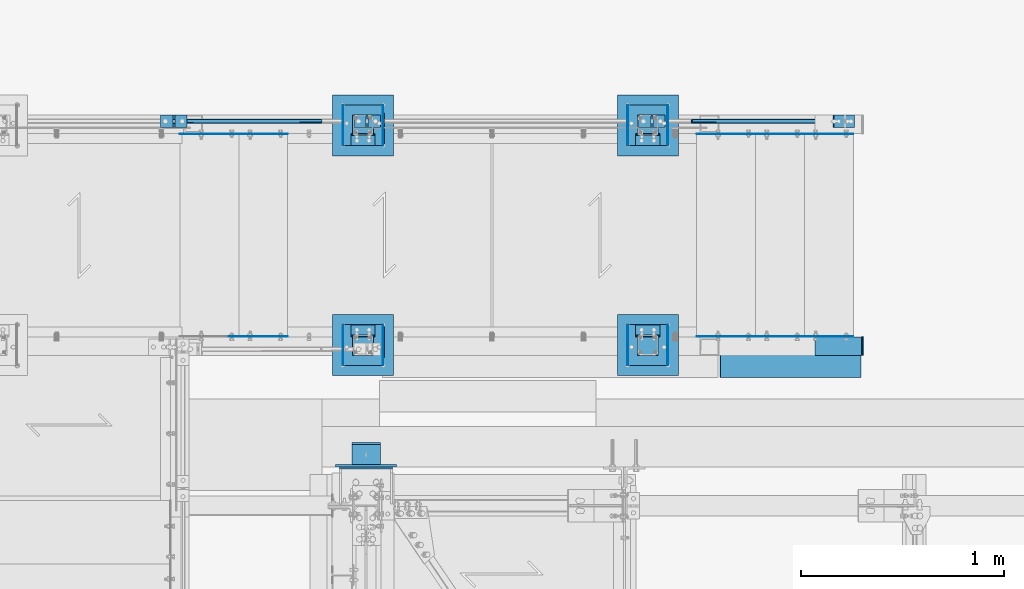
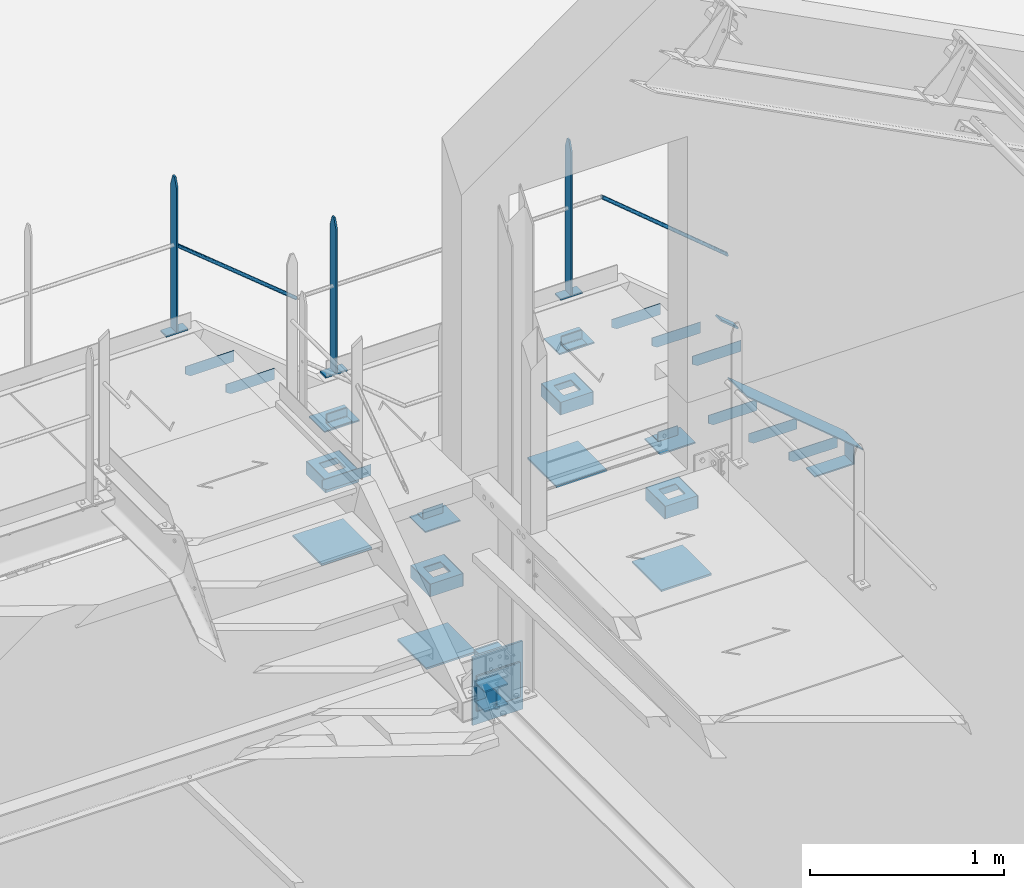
# One storey, part 99 of 362: 47 beams, 4 members, 18 elements without a shape of their own.
"""IFC2X3 building model written with IfcOpenShell, lengths in millimetres."""

import ifcopenshell
import ifcopenshell.guid

model = None  # the IFC model being written
_history = None  # IfcOwnerHistory: only IFC2X3 demands one
_inside = {}  # id of a spatial element -> (the spatial element, [elements in it])
_under = {}  # id of a project, library or spatial element -> (it, [spatial elements below it])
_declared = {}  # id of a project -> (the project, [libraries it declares])
_typed = {}  # id of a type object -> (the type object, [elements of that type])
_made_of = {}  # id of a material, layer set ... -> (it, [elements and type objects made of it])


def new_model(schema):
    """Start an empty IFC model of exactly this schema.

    Asked for "IFC4X3", IfcOpenShell would pick the latest addendum, in which some entities
    have other attributes; the version numbers below select the first issue.
    IFC2X3 requires an IfcOwnerHistory on every rooted entity: one is made here for all.
    """
    global model, _history
    if schema == "IFC4X3":
        model = ifcopenshell.file(schema_version=(4, 3, 0, 0))
    else:
        model = ifcopenshell.file(schema=schema)
    _inside.clear()
    _under.clear()
    _declared.clear()
    _typed.clear()
    _made_of.clear()
    _history = None
    if model.schema == "IFC2X3":
        org = make("IfcOrganization", Name="unknown")
        user = make(
            "IfcPersonAndOrganization",
            ThePerson=make("IfcPerson", FamilyName="unknown"),
            TheOrganization=org,
        )
        app = make(
            "IfcApplication",
            ApplicationDeveloper=org,
            Version="unknown",
            ApplicationFullName="unknown",
            ApplicationIdentifier="unknown",
        )
        _history = make(
            "IfcOwnerHistory",
            OwningUser=user,
            OwningApplication=app,
            ChangeAction="ADDED",
            CreationDate=0,
        )
    return model


def make(cls, **values):
    """One entity of the class cls with the attributes given. An attribute that is None is left unset."""
    return model.create_entity(
        cls, **{name: value for name, value in values.items() if value is not None}
    )


def rooted(cls, **values):
    """An entity with a GlobalId (a new one), such as an element, a storey or a relation."""
    return make(cls, GlobalId=ifcopenshell.guid.new(), OwnerHistory=_history, **values)


def si_unit(unit_type, name, prefix=None):
    """IfcSIUnit, for example si_unit("LENGTHUNIT", "METRE", prefix="MILLI")."""
    return make("IfcSIUnit", UnitType=unit_type, Prefix=prefix, Name=name)


def assignment(units):
    """IfcUnitAssignment: the units of a project."""
    return None if units is None else make("IfcUnitAssignment", Units=units)


def point(xyz):
    """IfcCartesianPoint."""
    return None if xyz is None else make("IfcCartesianPoint", Coordinates=xyz)


def direction(xyz):
    """IfcDirection."""
    return None if xyz is None else make("IfcDirection", DirectionRatios=xyz)


def frame(location, z_axis=None, x_axis=None):
    """IfcAxis2Placement3D, a coordinate frame: its origin and axes. An axis left out is left unset."""
    return make(
        "IfcAxis2Placement3D",
        Location=point(location),
        Axis=direction(z_axis),
        RefDirection=direction(x_axis),
    )


def frame_2d(location, x_axis=None):
    """IfcAxis2Placement2D, a coordinate frame in the plane: its origin and x axis."""
    return make(
        "IfcAxis2Placement2D", Location=point(location), RefDirection=direction(x_axis)
    )


def origin_with_axes():
    """The frame at (0, 0, 0) with the z axis (0, 0, 1) and the x axis (1, 0, 0) written out."""
    return frame((0.0, 0.0, 0.0), z_axis=(0.0, 0.0, 1.0), x_axis=(1.0, 0.0, 0.0))


def origin_2d_with_axis():
    """The frame at (0, 0) in the plane with the x axis (1, 0) written out."""
    return frame_2d((0.0, 0.0), x_axis=(1.0, 0.0))


def place(relative_to, where):
    """IfcLocalPlacement: puts the frame where relative to a parent placement (None: the world)."""
    return make(
        "IfcLocalPlacement", PlacementRelTo=relative_to, RelativePlacement=where
    )


def context(
    kind, dimensions, precision=None, world=None, true_north=None, identifier=None
):
    """IfcGeometricRepresentationContext, for example the 3D "Model" context."""
    return make(
        "IfcGeometricRepresentationContext",
        ContextIdentifier=identifier,
        ContextType=kind,
        CoordinateSpaceDimension=dimensions,
        Precision=precision,
        WorldCoordinateSystem=world,
        TrueNorth=true_north,
    )


def subcontext(parent, identifier, kind, view, scale=None):
    """IfcGeometricRepresentationSubContext, for example "Body" below "Model"."""
    return make(
        "IfcGeometricRepresentationSubContext",
        ContextIdentifier=identifier,
        ContextType=kind,
        ParentContext=parent,
        TargetScale=scale,
        TargetView=view,
    )


def project(units=None, contexts=None):
    """IfcProject with its units and contexts."""
    return rooted(
        "IfcProject",
        Name="project",
        RepresentationContexts=contexts,
        UnitsInContext=assignment(units),
    )


def spatial(cls, under=None, at=None, **own):
    """A site, building, storey or space (cls), placed at a placement, below another one or the project."""
    s = rooted(cls, ObjectPlacement=at, **own)
    if under is not None:
        _under.setdefault(under.id(), (under, []))[1].append(s)
    return s


def polyline(points):
    """IfcPolyline through the points."""
    return make("IfcPolyline", Points=[point(p) for p in points])


def profile(cls, at=None, kind="AREA", **sizes):
    """A parametric profile (cls). Its sizes go by their IFC names, for example OverallWidth=200.0."""
    return make(cls, ProfileType=kind, Position=at, **sizes)


def rectangle(**sizes):
    """IfcRectangleProfileDef."""
    return profile("IfcRectangleProfileDef", **sizes)


def hollow_circle(**sizes):
    """IfcCircleHollowProfileDef."""
    return profile("IfcCircleHollowProfileDef", **sizes)


def i_section(**sizes):
    """IfcIShapeProfileDef."""
    return profile("IfcIShapeProfileDef", **sizes)


def l_section(**sizes):
    """IfcLShapeProfileDef."""
    return profile("IfcLShapeProfileDef", **sizes)


def u_section(**sizes):
    """IfcUShapeProfileDef."""
    return profile("IfcUShapeProfileDef", **sizes)


def outline(outer, holes=None, kind="AREA"):
    """IfcArbitraryClosedProfileDef: a profile drawn as a closed curve; with holes, ...WithVoids."""
    if holes is None:
        return make("IfcArbitraryClosedProfileDef", ProfileType=kind, OuterCurve=outer)
    return make(
        "IfcArbitraryProfileDefWithVoids",
        ProfileType=kind,
        OuterCurve=outer,
        InnerCurves=holes,
    )


def extrude(swept, where, along, depth):
    """IfcExtrudedAreaSolid: the profile swept, set in the frame where, extruded along a direction by depth."""
    return make(
        "IfcExtrudedAreaSolid",
        SweptArea=swept,
        Position=where,
        ExtrudedDirection=direction(along),
        Depth=depth,
    )


def boolean(op, a, b):
    """IfcBooleanResult of two solids."""
    return make("IfcBooleanResult", Operator=op, FirstOperand=a, SecondOperand=b)


def clip(a, b, op="DIFFERENCE"):
    """IfcBooleanClippingResult: the solid a cut by the half space b."""
    return make(
        "IfcBooleanClippingResult", Operator=op, FirstOperand=a, SecondOperand=b
    )


def halfspace(plane, agree):
    """IfcHalfSpaceSolid: all space on one side of the plane z = 0 of the frame plane."""
    return make(
        "IfcHalfSpaceSolid",
        BaseSurface=make("IfcPlane", Position=plane),
        AgreementFlag=agree,
    )


def shape(context_of_items, identifier, shape_type, items):
    """IfcShapeRepresentation: the items that make up one representation, for example the "Body"."""
    return make(
        "IfcShapeRepresentation",
        ContextOfItems=context_of_items,
        RepresentationIdentifier=identifier,
        RepresentationType=shape_type,
        Items=items,
    )


def material(Name=None, Category=None):
    """IfcMaterial."""
    return make("IfcMaterial", Name=Name, Category=Category)


def made_of(thing, what):
    """Note that an element or type object is made of a material, layer set ...; save() writes the relation."""
    if what is not None:
        _made_of.setdefault(what.id(), (what, []))[1].append(thing)
    return thing


def type_object(cls, material=None, **own):
    """A type object (cls), such as IfcWallType, which elements share."""
    return made_of(rooted(cls, **own), material)


def element(
    cls,
    number,
    at=None,
    inside=None,
    cuts=None,
    type_object=None,
    material=None,
    context=None,
    identifier="Body",
    shape_type=None,
    held_by="IfcProductDefinitionShape",
    body=None,
    shapes=None,
    **own,
):
    """One element of the class cls, such as IfcWall. Its Tag is "e" and its number.

    at: its placement. inside: the storey or other place that contains it. cuts: it is an
    opening in that element (IfcRelVoidsElement). A single representation is given by context,
    identifier, shape_type and body (its items); several are given by shapes. held_by: the class
    of the entity that holds the representations. save() writes the other relations.
    """
    e = rooted(cls, Tag="e%d" % number, ObjectPlacement=at, **own)
    if body is not None:
        shapes = [shape(context, identifier, shape_type, body)]
    if shapes is not None:
        e.Representation = make(held_by, Representations=shapes)
    if inside is not None:
        _inside.setdefault(inside.id(), (inside, []))[1].append(e)
    if cuts is not None:
        rooted(
            "IfcRelVoidsElement", RelatingBuildingElement=cuts, RelatedOpeningElement=e
        )
    if type_object is not None:
        _typed.setdefault(type_object.id(), (type_object, []))[1].append(e)
    return made_of(e, material)


def aggregate(whole, parts):
    """IfcRelAggregates: a whole, such as a stair, and the parts it consists of."""
    return rooted("IfcRelAggregates", RelatingObject=whole, RelatedObjects=parts)


def save(model, path):
    """Write the relations noted so far, then the file.

    IfcRelAggregates (storeys below a building ...), IfcRelContainedInSpatialStructure (elements
    in a storey), IfcRelDefinesByType, IfcRelAssociatesMaterial and IfcRelDeclares: one each for
    every whole, place, type object, material and project.
    """
    for whole, parts in _under.values():
        aggregate(whole, parts)
    for where, things in _inside.values():
        rooted(
            "IfcRelContainedInSpatialStructure",
            RelatedElements=things,
            RelatingStructure=where,
        )
    for kind, things in _typed.values():
        rooted("IfcRelDefinesByType", RelatedObjects=things, RelatingType=kind)
    for what, things in _made_of.values():
        rooted("IfcRelAssociatesMaterial", RelatedObjects=things, RelatingMaterial=what)
    for by, libraries in _declared.values():
        rooted("IfcRelDeclares", RelatingContext=by, RelatedDefinitions=libraries)
    model.write(path)


model = new_model("IFC2X3")

# Units and contexts
model_context = context("Model", 3, precision=1e-05, world=origin_with_axes())
body_context = subcontext(model_context, "Body", "Model", "MODEL_VIEW")
ifc_project = project(units=[si_unit("LENGTHUNIT", "METRE", prefix="MILLI"), si_unit("AREAUNIT", "SQUARE_METRE"), si_unit("VOLUMEUNIT", "CUBIC_METRE"), si_unit("MASSUNIT", "GRAM", prefix="KILO"), si_unit("TIMEUNIT", "SECOND"), si_unit("PLANEANGLEUNIT", "RADIAN"), si_unit("SOLIDANGLEUNIT", "STERADIAN"), si_unit("THERMODYNAMICTEMPERATUREUNIT", "DEGREE_CELSIUS"), si_unit("LUMINOUSINTENSITYUNIT", "LUMEN")], contexts=[model_context])

# Site, building, storey
site_placement = place(None, origin_with_axes())
site = spatial("IfcSite", under=ifc_project, at=site_placement, Name="Undefined", CompositionType="ELEMENT")
building_placement = place(site_placement, origin_with_axes())
building = spatial("IfcBuilding", under=site, at=building_placement, Name="Undefined", CompositionType="ELEMENT")
storey_placement = place(building_placement, origin_with_axes())
storey = spatial("IfcBuildingStorey", under=building, at=storey_placement, Name="Undefined", CompositionType="ELEMENT", Elevation=0.0)

# Assembly, member
assembly_1_placement = place(storey_placement, origin_with_axes())
assembly_1 = element("IfcElementAssembly", 1, at=assembly_1_placement, inside=storey, Name="CACHE VIDE", AssemblyPlace="NOTDEFINED", PredefinedType="NOTDEFINED")
ifc_material_1 = material(Name="Undefined/S235-E24")
member_type_1 = type_object("IfcMemberType", Name="PL200*6", PredefinedType="NOTDEFINED")
member_1_placement = place(assembly_1_placement, frame((25902.16080149, 15929.9998774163, 7532.9377228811), z_axis=(0.0, -1.0, 0.0), x_axis=(-0.768221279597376, 0.0, 0.640184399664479)))
member_1 = element("IfcMember", 2, at=member_1_placement, type_object=member_type_1, material=ifc_material_1, Name="CACHE VIDE", ObjectType="PL200*6", context=body_context, shape_type="SweptSolid", body=[
    extrude(rectangle(XDim=6.0, YDim=200.0, at=origin_2d_with_axis()), frame((900.000000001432, 9.99200722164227e-14, 0.0), z_axis=(-1.0, 0.0, 0.0), x_axis=(0.0, -1.0, 0.0)), (0.0, 0.0, 1.0), 900.0),
])
aggregate(assembly_1, [member_1])

# Assembly, beams, members
assembly_2_placement = place(storey_placement, origin_with_axes())
assembly_2 = element("IfcElementAssembly", 3, at=assembly_2_placement, inside=storey, Name="MAIN COURANTE", AssemblyPlace="NOTDEFINED", PredefinedType="NOTDEFINED")
beam_type_1 = type_object("IfcBeamType", Name="PL10*60", PredefinedType="NOTDEFINED")
beam_1_placement = place(assembly_2_placement, frame((24940.0061849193, 17089.9938659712, 8114.9999407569), z_axis=(0.0, 1.0, 0.0), x_axis=(-1.0, 0.0, 0.0)))
beam_1 = element("IfcBeam", 4, at=beam_1_placement, type_object=beam_type_1, material=ifc_material_1, Name="PLATINE", ObjectType="PL10*60", context=body_context, shape_type="SweptSolid", body=[
    extrude(rectangle(XDim=10.0, YDim=60.0, at=origin_2d_with_axis()), frame((130.0, 0.0, 0.0), z_axis=(-1.0, 0.0, 0.0), x_axis=(0.0, -1.0, 0.0)), (0.0, 0.0, 1.0), 130.0),
])
beam_2_placement = place(assembly_2_placement, frame((23540.0061849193, 17089.9938659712, 8114.9999407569), z_axis=(0.0, 1.0, 0.0), x_axis=(-1.0, 0.0, 0.0)))
beam_2 = element("IfcBeam", 5, at=beam_2_placement, type_object=beam_type_1, material=ifc_material_1, Name="PLATINE", ObjectType="PL10*60", context=body_context, shape_type="SweptSolid", body=[
    extrude(rectangle(XDim=10.0, YDim=60.0, at=origin_2d_with_axis()), frame((130.0, 0.0, 0.0), z_axis=(-1.0, 0.0, 0.0), x_axis=(0.0, -1.0, 0.0)), (0.0, 0.0, 1.0), 130.0),
])
beam_3_placement = place(assembly_2_placement, frame((22525.0061849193, 17089.9938659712, 9677.59999847), z_axis=(0.0, -1.0, 0.0), x_axis=(0.0, 0.0, -1.0)))
beam_3 = element("IfcBeam", 6, at=beam_3_placement, type_object=beam_type_1, material=ifc_material_1, Name="MONTANT", ObjectType="PL10*60", context=body_context, shape_type="Clipping", body=[
    clip(clip(extrude(rectangle(XDim=10.0, YDim=60.0, at=origin_2d_with_axis()), frame((967.59999845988, 0.0, 0.0), z_axis=(-1.0, 0.0, 0.0), x_axis=(0.0, -1.0, 0.0)), (0.0, 0.0, 1.0), 967.6), halfspace(frame((-120.0, 5.0, -30.0), z_axis=(-0.316227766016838, 0.0, 0.948683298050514), x_axis=(0.948683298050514, 0.0, 0.316227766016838)), False)), halfspace(frame((60.0, 5.0, -30.0), z_axis=(-0.316227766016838, 0.0, -0.948683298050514), x_axis=(-0.948683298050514, 0.0, 0.316227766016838)), False)),
])
beam_4_placement = place(assembly_2_placement, frame((22590.0061849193, 17089.9938659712, 8705.00000001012), z_axis=(0.0, 1.0, 0.0), x_axis=(-1.0, 0.0, 0.0)))
beam_4 = element("IfcBeam", 7, at=beam_4_placement, type_object=beam_type_1, material=ifc_material_1, Name="PLATINE", ObjectType="PL10*60", context=body_context, shape_type="SweptSolid", body=[
    extrude(rectangle(XDim=10.0, YDim=60.0, at=origin_2d_with_axis()), frame((130.0, 0.0, 0.0), z_axis=(-1.0, 0.0, 0.0), x_axis=(0.0, -1.0, 0.0)), (0.0, 0.0, 1.0), 130.0),
])
beam_5_placement = place(assembly_2_placement, frame((24875.0061849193, 17089.9938659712, 9087.59993922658), z_axis=(0.0, -1.0, 0.0), x_axis=(0.0, 0.0, -1.0)))
beam_5 = element("IfcBeam", 8, at=beam_5_placement, type_object=beam_type_1, material=ifc_material_1, Name="MONTANT", ObjectType="PL10*60", context=body_context, shape_type="Clipping", body=[
    clip(clip(extrude(rectangle(XDim=10.0, YDim=60.0, at=origin_2d_with_axis()), frame((967.599939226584, 0.0, 0.0), z_axis=(-1.0, 0.0, 0.0), x_axis=(0.0, -1.0, 0.0)), (0.0, 0.0, 1.0), 967.6), halfspace(frame((-120.0, 5.0, -30.0), z_axis=(-0.316227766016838, 0.0, 0.948683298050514), x_axis=(0.948683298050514, 0.0, 0.316227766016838)), False)), halfspace(frame((60.0, 5.0, -30.0), z_axis=(-0.316227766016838, 0.0, -0.948683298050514), x_axis=(-0.948683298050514, 0.0, 0.316227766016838)), False)),
])
beam_6_placement = place(assembly_2_placement, frame((23475.0061849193, 17089.9938659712, 9087.59993922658), z_axis=(0.0, -1.0, 0.0), x_axis=(0.0, 0.0, -1.0)))
beam_6 = element("IfcBeam", 9, at=beam_6_placement, type_object=beam_type_1, material=ifc_material_1, Name="MONTANT", ObjectType="PL10*60", context=body_context, shape_type="Clipping", body=[
    clip(clip(extrude(rectangle(XDim=10.0, YDim=60.0, at=origin_2d_with_axis()), frame((967.59999845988, 0.0, 0.0), z_axis=(-1.0, 0.0, 0.0), x_axis=(0.0, -1.0, 0.0)), (0.0, 0.0, 1.0), 967.6), halfspace(frame((-120.0, 5.0, -30.0), z_axis=(-0.316227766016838, 0.0, 0.948683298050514), x_axis=(0.948683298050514, 0.0, 0.316227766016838)), False)), halfspace(frame((60.0, 5.0, -30.0), z_axis=(-0.316227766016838, 0.0, -0.948683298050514), x_axis=(-0.948683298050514, 0.0, 0.316227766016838)), False)),
])
member_type_2 = type_object("IfcMemberType", Name="TUBE-21.3*2", PredefinedType="NOTDEFINED")
member_2_placement = place(assembly_2_placement, frame((23250.3145397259, 17089.9898795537, 8653.80000001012), z_axis=(0.0, -1.0, 0.0), x_axis=(-0.773488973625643, 0.0, 0.633809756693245)))
member_2 = element("IfcMember", 10, at=member_2_placement, type_object=member_type_2, material=ifc_material_1, Name="LISSE", ObjectType="TUBE-21.3*2", context=body_context, shape_type="Clipping", body=[
    clip(clip(extrude(hollow_circle(Radius=10.64999962, WallThickness=2.0, at=origin_2d_with_axis()), frame((949.850840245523, 0.0, 0.0), z_axis=(-1.0, 0.0, 0.0), x_axis=(0.0, -1.0, 0.0)), (0.0, 0.0, 1.0), 968.46), halfspace(frame((942.913936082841, -14.2395691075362, -0.00398641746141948), z_axis=(-0.773488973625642, -0.633809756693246, 0.0), x_axis=(0.0, 0.0, -1.0)), True)), halfspace(frame((3.80609846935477, -10.6499996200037, -0.00398641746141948), z_axis=(-0.941671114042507, -0.336534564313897, 0.0), x_axis=(0.0, 0.0, -1.0)), False)),
])
member_3_placement = place(assembly_2_placement, frame((25825.0061849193, 17089.9898795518, 8025.73196061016), z_axis=(0.0, -1.0, 0.0), x_axis=(-0.768221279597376, 0.0, 0.640184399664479)))
member_3 = element("IfcMember", 11, at=member_3_placement, type_object=member_type_2, material=ifc_material_1, Name="LISSE", ObjectType="TUBE-21.3*2", context=body_context, shape_type="Clipping", body=[
    clip(clip(extrude(hollow_circle(Radius=10.64999962, WallThickness=2.0, at=origin_2d_with_axis()), frame((999.915375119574, 0.0, 0.0), z_axis=(-1.0, 0.0, 0.0), x_axis=(0.0, -1.0, 0.0)), (0.0, 0.0, 1.0), 1012.25), halfspace(frame((981.073731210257, -1.82259100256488e-07, -0.0039864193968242), z_axis=(-0.940271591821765, -0.340425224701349, 0.0), x_axis=(0.0, 0.0, -1.0)), True)), halfspace(frame((18.5934348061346, -14.5018748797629, -0.0039864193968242), z_axis=(-0.768221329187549, -0.640184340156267, 0.0), x_axis=(0.0, 0.0, -1.0)), False)),
])

# Assembly, beam
assembly_3_placement = place(storey_placement, origin_with_axes())
assembly_3 = element("IfcElementAssembly", 12, at=assembly_3_placement, inside=storey, AssemblyPlace="NOTDEFINED", PredefinedType="NOTDEFINED")
beam_type_2 = type_object("IfcBeamType", Name="PL12*300", PredefinedType="NOTDEFINED")
beam_7_placement = place(assembly_3_placement, frame((23605.0, 15840.0001225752, 7056.0), z_axis=(0.0, 0.0, -1.0), x_axis=(-1.0, 0.0, 0.0)))
beam_7 = element("IfcBeam", 13, at=beam_7_placement, type_object=beam_type_2, material=ifc_material_1, Name="PLATINE", ObjectType="PL12*300", context=body_context, shape_type="SweptSolid", body=[
    extrude(outline(polyline([(0.0, 0.0), (300.0, 0.0), (300.0, 300.0), (0.0, 300.0), (0.0, 0.0)])), frame((0.0, 0.0, -6.0), z_axis=(0.0, 0.0, 1.0), x_axis=(1.0, 0.0, 0.0)), (0.0, 0.0, 1.0), 12.0),
])

assembly_4_placement = place(storey_placement, origin_with_axes())
assembly_4 = element("IfcElementAssembly", 14, at=assembly_4_placement, inside=storey, AssemblyPlace="NOTDEFINED", PredefinedType="NOTDEFINED")
beam_8_placement = place(assembly_4_placement, frame((25005.0, 15840.0001225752, 7056.0), z_axis=(0.0, 0.0, -1.0), x_axis=(-1.0, 0.0, 0.0)))
beam_8 = element("IfcBeam", 15, at=beam_8_placement, type_object=beam_type_2, material=ifc_material_1, Name="PLATINE", ObjectType="PL12*300", context=body_context, shape_type="SweptSolid", body=[
    extrude(outline(polyline([(0.0, 0.0), (300.0, 0.0), (300.0, 300.0), (0.0, 300.0), (0.0, 0.0)])), frame((0.0, 0.0, -6.0), z_axis=(0.0, 0.0, 1.0), x_axis=(1.0, 0.0, 0.0)), (0.0, 0.0, 1.0), 12.0),
])

assembly_5_placement = place(storey_placement, origin_with_axes())
assembly_5 = element("IfcElementAssembly", 16, at=assembly_5_placement, inside=storey, AssemblyPlace="NOTDEFINED", PredefinedType="NOTDEFINED")
beam_9_placement = place(assembly_5_placement, frame((23605.0, 17219.9998774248, 7056.0), z_axis=(0.0, 0.0, 1.0), x_axis=(-1.0, 0.0, 0.0)))
beam_9 = element("IfcBeam", 17, at=beam_9_placement, type_object=beam_type_2, material=ifc_material_1, Name="PLATINE", ObjectType="PL12*300", context=body_context, shape_type="SweptSolid", body=[
    extrude(outline(polyline([(0.0, 0.0), (300.0, 0.0), (300.0, 300.0), (0.0, 300.0), (0.0, 0.0)])), frame((0.0, 0.0, -6.0), z_axis=(0.0, 0.0, 1.0), x_axis=(1.0, 0.0, 0.0)), (0.0, 0.0, 1.0), 12.0),
])

assembly_6_placement = place(storey_placement, origin_with_axes())
assembly_6 = element("IfcElementAssembly", 18, at=assembly_6_placement, inside=storey, AssemblyPlace="NOTDEFINED", PredefinedType="NOTDEFINED")
beam_10_placement = place(assembly_6_placement, frame((25005.0, 17219.9998774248, 7056.0), z_axis=(0.0, 0.0, 1.0), x_axis=(-1.0, 0.0, 0.0)))
beam_10 = element("IfcBeam", 19, at=beam_10_placement, type_object=beam_type_2, material=ifc_material_1, Name="PLATINE", ObjectType="PL12*300", context=body_context, shape_type="SweptSolid", body=[
    extrude(outline(polyline([(0.0, 0.0), (300.0, 0.0), (300.0, 300.0), (0.0, 300.0), (0.0, 0.0)])), frame((0.0, 0.0, -6.0), z_axis=(0.0, 0.0, 1.0), x_axis=(1.0, 0.0, 0.0)), (0.0, 0.0, 1.0), 12.0),
])

assembly_7_placement = place(storey_placement, origin_with_axes())
assembly_7 = element("IfcElementAssembly", 20, at=assembly_7_placement, inside=storey, AssemblyPlace="NOTDEFINED", PredefinedType="NOTDEFINED")
beam_11_placement = place(assembly_7_placement, frame((23470.0000000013, 15395.9999998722, 7394.99830350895), z_axis=(-1.0, 0.0, 0.0), x_axis=(0.0, 0.0, -1.0)))
beam_11 = element("IfcBeam", 21, at=beam_11_placement, type_object=beam_type_2, material=ifc_material_1, Name="PRESCELLEMENT", ObjectType="PL12*300", context=body_context, shape_type="SweptSolid", body=[
    extrude(rectangle(XDim=12.0, YDim=300.0, at=origin_2d_with_axis()), frame((429.999999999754, 0.0, 0.0), z_axis=(-1.0, 0.0, 0.0), x_axis=(0.0, -1.0, 0.0)), (0.0, 0.0, 1.0), 430.0),
])

# Member
member_type_3 = type_object("IfcMemberType", Name="PL10*60", PredefinedType="NOTDEFINED")
member_4_placement = place(assembly_2_placement, frame((25867.8985396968, 17089.9938659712, 7564.09302426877), z_axis=(0.0, 1.0, 0.0), x_axis=(-0.768221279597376, 0.0, 0.640184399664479)))
member_4 = element("IfcMember", 22, at=member_4_placement, type_object=member_type_3, material=ifc_material_1, Name="PLATINE", ObjectType="PL10*60", context=body_context, shape_type="SweptSolid", body=[
    extrude(rectangle(XDim=10.0, YDim=60.0, at=origin_2d_with_axis()), frame((130.0, 0.0, 0.0), z_axis=(-1.0, 0.0, 0.0), x_axis=(0.0, -1.0, 0.0)), (0.0, 0.0, 1.0), 130.0),
])

aggregate(assembly_2, [member_4, beam_1, beam_2, beam_3, beam_4, member_2, member_3, beam_5, beam_6])

# Beam
beam_type_3 = type_object("IfcBeamType", Name="PL8*160", PredefinedType="NOTDEFINED")
beam_12_placement = place(assembly_3_placement, frame((23560.0, 15930.0006414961, 7846.00001160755), z_axis=(0.0, 0.0, -1.0), x_axis=(-1.0, 0.0, 0.0)))
beam_12 = element("IfcBeam", 23, at=beam_12_placement, type_object=beam_type_3, material=ifc_material_1, Name="PLATINE", ObjectType="PL8*160", context=body_context, shape_type="SweptSolid", body=[
    extrude(outline(polyline([(0.0, 0.0), (210.0, 0.0), (210.0, 159.999481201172), (0.0, 159.999481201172), (0.0, 0.0)])), frame((0.0, 0.0, -4.0), z_axis=(0.0, 0.0, 1.0), x_axis=(1.0, 0.0, 0.0)), (0.0, 0.0, 1.0), 8.0),
])

beam_13_placement = place(assembly_4_placement, frame((24960.0, 15930.0006414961, 7846.00001160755), z_axis=(0.0, 0.0, -1.0), x_axis=(-1.0, 0.0, 0.0)))
beam_13 = element("IfcBeam", 24, at=beam_13_placement, type_object=beam_type_3, material=ifc_material_1, Name="PLATINE", ObjectType="PL8*160", context=body_context, shape_type="SweptSolid", body=[
    extrude(outline(polyline([(0.0, 0.0), (210.0, 0.0), (210.0, 159.999481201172), (0.0, 159.999481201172), (0.0, 0.0)])), frame((0.0, 0.0, -4.0), z_axis=(0.0, 0.0, 1.0), x_axis=(1.0, 0.0, 0.0)), (0.0, 0.0, 1.0), 8.0),
])

beam_14_placement = place(assembly_5_placement, frame((23560.0, 17129.9993585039, 7846.00001160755), z_axis=(0.0, 0.0, 1.0), x_axis=(-1.0, 0.0, 0.0)))
beam_14 = element("IfcBeam", 25, at=beam_14_placement, type_object=beam_type_3, material=ifc_material_1, Name="PLATINE", ObjectType="PL8*160", context=body_context, shape_type="SweptSolid", body=[
    extrude(outline(polyline([(0.0, 0.0), (210.0, 0.0), (210.0, 159.999481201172), (0.0, 159.999481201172), (0.0, 0.0)])), frame((0.0, 0.0, -4.0), z_axis=(0.0, 0.0, 1.0), x_axis=(1.0, 0.0, 0.0)), (0.0, 0.0, 1.0), 8.0),
])

beam_15_placement = place(assembly_6_placement, frame((24960.0, 17129.9993585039, 7846.00001160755), z_axis=(0.0, 0.0, 1.0), x_axis=(-1.0, 0.0, 0.0)))
beam_15 = element("IfcBeam", 26, at=beam_15_placement, type_object=beam_type_3, material=ifc_material_1, Name="PLATINE", ObjectType="PL8*160", context=body_context, shape_type="SweptSolid", body=[
    extrude(outline(polyline([(0.0, 0.0), (210.0, 0.0), (210.0, 159.999481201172), (0.0, 159.999481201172), (0.0, 0.0)])), frame((0.0, 0.0, -4.0), z_axis=(0.0, 0.0, 1.0), x_axis=(1.0, 0.0, 0.0)), (0.0, 0.0, 1.0), 8.0),
])

beam_type_4 = type_object("IfcBeamType", Name="PL4*80", PredefinedType="NOTDEFINED")
beam_16_placement = place(assembly_3_placement, frame((23553.0, 16090.0001225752, 7500.0), z_axis=(0.0, 0.0, 1.0), x_axis=(0.0, -1.0, 0.0)))
beam_16 = element("IfcBeam", 27, at=beam_16_placement, type_object=beam_type_4, material=ifc_material_1, Name="BORD COLLERETTE", ObjectType="PL4*80", context=body_context, shape_type="SweptSolid", body=[
    extrude(rectangle(XDim=4.0, YDim=80.0, at=origin_2d_with_axis()), frame((200.0, 0.0, 0.0), z_axis=(-1.0, 0.0, 0.0), x_axis=(0.0, -1.0, 0.0)), (0.0, 0.0, 1.0), 200.0),
])

beam_17_placement = place(assembly_4_placement, frame((24953.0, 16090.0001225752, 7500.0), z_axis=(0.0, 0.0, 1.0), x_axis=(0.0, -1.0, 0.0)))
beam_17 = element("IfcBeam", 28, at=beam_17_placement, type_object=beam_type_4, material=ifc_material_1, Name="BORD COLLERETTE", ObjectType="PL4*80", context=body_context, shape_type="SweptSolid", body=[
    extrude(rectangle(XDim=4.0, YDim=80.0, at=origin_2d_with_axis()), frame((200.0, 0.0, 0.0), z_axis=(-1.0, 0.0, 0.0), x_axis=(0.0, -1.0, 0.0)), (0.0, 0.0, 1.0), 200.0),
])

beam_18_placement = place(assembly_3_placement, frame((23357.0, 16090.0001225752, 7500.0), z_axis=(0.0, 0.0, 1.0), x_axis=(0.0, -1.0, 0.0)))
beam_18 = element("IfcBeam", 29, at=beam_18_placement, type_object=beam_type_4, material=ifc_material_1, Name="BORD COLLERETTE", ObjectType="PL4*80", context=body_context, shape_type="SweptSolid", body=[
    extrude(rectangle(XDim=4.0, YDim=80.0, at=origin_2d_with_axis()), frame((200.0, 0.0, 0.0), z_axis=(-1.0, 0.0, 0.0), x_axis=(0.0, -1.0, 0.0)), (0.0, 0.0, 1.0), 200.0),
])

beam_19_placement = place(assembly_4_placement, frame((24757.0, 16090.0001225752, 7500.0), z_axis=(0.0, 0.0, 1.0), x_axis=(0.0, -1.0, 0.0)))
beam_19 = element("IfcBeam", 30, at=beam_19_placement, type_object=beam_type_4, material=ifc_material_1, Name="BORD COLLERETTE", ObjectType="PL4*80", context=body_context, shape_type="SweptSolid", body=[
    extrude(rectangle(XDim=4.0, YDim=80.0, at=origin_2d_with_axis()), frame((200.0, 0.0, 0.0), z_axis=(-1.0, 0.0, 0.0), x_axis=(0.0, -1.0, 0.0)), (0.0, 0.0, 1.0), 200.0),
])

beam_20_placement = place(assembly_5_placement, frame((23553.0, 16969.9998774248, 7500.0), z_axis=(0.0, 0.0, 1.0), x_axis=(0.0, 1.0, 0.0)))
beam_20 = element("IfcBeam", 31, at=beam_20_placement, type_object=beam_type_4, material=ifc_material_1, Name="BORD COLLERETTE", ObjectType="PL4*80", context=body_context, shape_type="SweptSolid", body=[
    extrude(rectangle(XDim=4.0, YDim=80.0, at=origin_2d_with_axis()), frame((200.0, 0.0, 0.0), z_axis=(-1.0, 0.0, 0.0), x_axis=(0.0, -1.0, 0.0)), (0.0, 0.0, 1.0), 200.0),
])

beam_21_placement = place(assembly_6_placement, frame((24953.0, 16969.9998774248, 7500.0), z_axis=(0.0, 0.0, 1.0), x_axis=(0.0, 1.0, 0.0)))
beam_21 = element("IfcBeam", 32, at=beam_21_placement, type_object=beam_type_4, material=ifc_material_1, Name="BORD COLLERETTE", ObjectType="PL4*80", context=body_context, shape_type="SweptSolid", body=[
    extrude(rectangle(XDim=4.0, YDim=80.0, at=origin_2d_with_axis()), frame((200.0, 0.0, 0.0), z_axis=(-1.0, 0.0, 0.0), x_axis=(0.0, -1.0, 0.0)), (0.0, 0.0, 1.0), 200.0),
])

beam_22_placement = place(assembly_5_placement, frame((23357.0, 16969.9998774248, 7500.0), z_axis=(0.0, 0.0, 1.0), x_axis=(0.0, 1.0, 0.0)))
beam_22 = element("IfcBeam", 33, at=beam_22_placement, type_object=beam_type_4, material=ifc_material_1, Name="BORD COLLERETTE", ObjectType="PL4*80", context=body_context, shape_type="SweptSolid", body=[
    extrude(rectangle(XDim=4.0, YDim=80.0, at=origin_2d_with_axis()), frame((200.0, 0.0, 0.0), z_axis=(-1.0, 0.0, 0.0), x_axis=(0.0, -1.0, 0.0)), (0.0, 0.0, 1.0), 200.0),
])

beam_23_placement = place(assembly_6_placement, frame((24757.0, 16969.9998774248, 7500.0), z_axis=(0.0, 0.0, 1.0), x_axis=(0.0, 1.0, 0.0)))
beam_23 = element("IfcBeam", 34, at=beam_23_placement, type_object=beam_type_4, material=ifc_material_1, Name="BORD COLLERETTE", ObjectType="PL4*80", context=body_context, shape_type="SweptSolid", body=[
    extrude(rectangle(XDim=4.0, YDim=80.0, at=origin_2d_with_axis()), frame((200.0, 0.0, 0.0), z_axis=(-1.0, 0.0, 0.0), x_axis=(0.0, -1.0, 0.0)), (0.0, 0.0, 1.0), 200.0),
])

beam_type_5 = type_object("IfcBeamType", Name="UPF-200*80*4", PredefinedType="NOTDEFINED")
beam_24_placement = place(assembly_3_placement, frame((23551.0, 15990.0001225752, 7500.0), z_axis=(0.0, 1.0, 0.0), x_axis=(-1.0, 0.0, 0.0)))
beam_24 = element("IfcBeam", 35, at=beam_24_placement, type_object=beam_type_5, material=ifc_material_1, Name="COLLERETTE", ObjectType="UPF-200*80*4", context=body_context, shape_type="CSG", body=[
    boolean("DIFFERENCE", extrude(u_section(Depth=200.0, FlangeWidth=80.0, WebThickness=4.0, FlangeThickness=4.0, at=origin_2d_with_axis()), frame((192.0, 0.0, 0.0), z_axis=(-1.0, 0.0, 0.0), x_axis=(0.0, -1.0, 0.0)), (0.0, 0.0, 1.0), 192.0), extrude(outline(polyline([(0.0, 0.0), (101.0, 0.0), (101.0, 101.0), (0.0, 101.0), (0.0, 0.0)])), frame((146.5, -42.5, 50.5), z_axis=(0.0, 1.0, 0.0), x_axis=(0.0, 0.0, -1.0)), (0.0, 0.0, 1.0), 85.0)),
])

aggregate(assembly_3, [beam_12, beam_16, beam_18, beam_24, beam_7])

beam_25_placement = place(assembly_4_placement, frame((24951.0, 15990.0001225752, 7500.0), z_axis=(0.0, 1.0, 0.0), x_axis=(-1.0, 0.0, 0.0)))
beam_25 = element("IfcBeam", 36, at=beam_25_placement, type_object=beam_type_5, material=ifc_material_1, Name="COLLERETTE", ObjectType="UPF-200*80*4", context=body_context, shape_type="CSG", body=[
    boolean("DIFFERENCE", extrude(u_section(Depth=200.0, FlangeWidth=80.0, WebThickness=4.0, FlangeThickness=4.0, at=origin_2d_with_axis()), frame((192.0, 0.0, 0.0), z_axis=(-1.0, 0.0, 0.0), x_axis=(0.0, -1.0, 0.0)), (0.0, 0.0, 1.0), 192.0), extrude(outline(polyline([(0.0, 0.0), (101.0, 0.0), (101.0, 101.0), (0.0, 101.0), (0.0, 0.0)])), frame((146.5, -42.5, 50.5), z_axis=(0.0, 1.0, 0.0), x_axis=(0.0, 0.0, -1.0)), (0.0, 0.0, 1.0), 85.0)),
])

aggregate(assembly_4, [beam_17, beam_13, beam_19, beam_25, beam_8])

beam_26_placement = place(assembly_5_placement, frame((23359.0, 17069.9998774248, 7500.0), z_axis=(0.0, -1.0, 0.0), x_axis=(1.0, 0.0, 0.0)))
beam_26 = element("IfcBeam", 37, at=beam_26_placement, type_object=beam_type_5, material=ifc_material_1, Name="COLLERETTE", ObjectType="UPF-200*80*4", context=body_context, shape_type="CSG", body=[
    boolean("DIFFERENCE", extrude(u_section(Depth=200.0, FlangeWidth=80.0, WebThickness=4.0, FlangeThickness=4.0, at=origin_2d_with_axis()), frame((192.0, 0.0, 0.0), z_axis=(-1.0, 0.0, 0.0), x_axis=(0.0, -1.0, 0.0)), (0.0, 0.0, 1.0), 192.0), extrude(outline(polyline([(0.0, 0.0), (101.0, 0.0), (101.0, 101.0), (0.0, 101.0), (0.0, 0.0)])), frame((45.5, -42.5, -50.5), z_axis=(0.0, 1.0, 0.0), x_axis=(0.0, 0.0, 1.0)), (0.0, 0.0, 1.0), 85.0)),
])

aggregate(assembly_5, [beam_14, beam_20, beam_22, beam_26, beam_9])

beam_27_placement = place(assembly_6_placement, frame((24759.0, 17069.9998774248, 7500.0), z_axis=(0.0, -1.0, 0.0), x_axis=(1.0, 0.0, 0.0)))
beam_27 = element("IfcBeam", 38, at=beam_27_placement, type_object=beam_type_5, material=ifc_material_1, Name="COLLERETTE", ObjectType="UPF-200*80*4", context=body_context, shape_type="CSG", body=[
    boolean("DIFFERENCE", extrude(u_section(Depth=200.0, FlangeWidth=80.0, WebThickness=4.0, FlangeThickness=4.0, at=origin_2d_with_axis()), frame((192.0, 0.0, 0.0), z_axis=(-1.0, 0.0, 0.0), x_axis=(0.0, -1.0, 0.0)), (0.0, 0.0, 1.0), 192.0), extrude(outline(polyline([(0.0, 0.0), (101.0, 0.0), (101.0, 101.0), (0.0, 101.0), (0.0, 0.0)])), frame((45.5, -42.5, -50.5), z_axis=(0.0, 1.0, 0.0), x_axis=(0.0, 0.0, 1.0)), (0.0, 0.0, 1.0), 85.0)),
])

aggregate(assembly_6, [beam_21, beam_15, beam_23, beam_27, beam_10])

# Assembly, beams
assembly_8_placement = place(storey_placement, origin_with_axes())
assembly_8 = element("IfcElementAssembly", 39, at=assembly_8_placement, inside=storey, AssemblyPlace="NOTDEFINED", PredefinedType="NOTDEFINED")
beam_type_6 = type_object("IfcBeamType", Name="PL8*90", PredefinedType="NOTDEFINED")
beam_28_placement = place(assembly_8_placement, frame((25914.9999902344, 15984.9998774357, 7373.99994075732), z_axis=(0.0, -1.0, 0.0), x_axis=(-1.0, 0.0, 0.0)))
beam_28 = element("IfcBeam", 40, at=beam_28_placement, type_object=beam_type_6, material=ifc_material_1, Name="PLAT LIMON", ObjectType="PL8*90", context=body_context, shape_type="SweptSolid", body=[
    extrude(rectangle(XDim=8.0, YDim=90.0, at=origin_2d_with_axis()), frame((237.732983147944, 0.0, 0.0), z_axis=(-1.0, 0.0, 0.0), x_axis=(0.0, -1.0, 0.0)), (0.0, 0.0, 1.0), 237.73),
])
beam_29_placement = place(assembly_8_placement, frame((25910.9999902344, 15984.9998774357, 7524.9999407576), z_axis=(0.0, -1.0, 0.0), x_axis=(0.0, 0.0, -1.0)))
beam_29 = element("IfcBeam", 41, at=beam_29_placement, type_object=beam_type_6, material=ifc_material_1, Name="PLAT LIMON", ObjectType="PL8*90", context=body_context, shape_type="SweptSolid", body=[
    extrude(rectangle(XDim=8.0, YDim=90.0, at=origin_2d_with_axis()), frame((147.00000000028, 0.0, 0.0), z_axis=(-1.0, 0.0, 0.0), x_axis=(0.0, -1.0, 0.0)), (0.0, 0.0, 1.0), 147.0),
])
aggregate(assembly_8, [beam_28, beam_29])

# Assembly, beam
assembly_9_placement = place(storey_placement, origin_with_axes())
assembly_9 = element("IfcElementAssembly", 42, at=assembly_9_placement, inside=storey, Name="MARCHE", AssemblyPlace="NOTDEFINED", PredefinedType="NOTDEFINED")
beam_type_7 = type_object("IfcBeamType", Name="TOLE3*70", PredefinedType="NOTDEFINED")
beam_30_placement = place(assembly_9_placement, frame((22844.9999902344, 17028.5001225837, 8503.3299407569), z_axis=(0.0, 1.0, 0.0), x_axis=(0.0, 0.0, -1.0)))
beam_30 = element("IfcBeam", 43, at=beam_30_placement, type_object=beam_type_7, material=ifc_material_1, Name="PLAT MARCHE", ObjectType="TOLE3*70", context=body_context, shape_type="SweptSolid", body=[
    extrude(outline(polyline([(0.0, 0.0), (70.0, 0.0), (70.0, 260.0), (50.0, 290.0), (0.0, 290.0), (0.0, 0.0)])), frame((0.0, 0.0, -1.5), z_axis=(0.0, 0.0, 1.0), x_axis=(1.0, 0.0, 0.0)), (0.0, 0.0, 1.0), 3.0),
])
aggregate(assembly_9, [beam_30])

# Assembly, beams
assembly_10_placement = place(storey_placement, origin_with_axes())
assembly_10 = element("IfcElementAssembly", 44, at=assembly_10_placement, inside=storey, Name="MARCHE", AssemblyPlace="NOTDEFINED", PredefinedType="NOTDEFINED")
beam_31_placement = place(assembly_10_placement, frame((23084.9999902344, 17028.5001225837, 8306.6699407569), z_axis=(0.0, 1.0, 0.0), x_axis=(0.0, 0.0, -1.0)))
beam_31 = element("IfcBeam", 45, at=beam_31_placement, type_object=beam_type_7, material=ifc_material_1, Name="PLAT MARCHE", ObjectType="TOLE3*70", context=body_context, shape_type="SweptSolid", body=[
    extrude(outline(polyline([(0.0, 0.0), (70.0, 0.0), (70.0, 260.0), (50.0, 290.0), (0.0, 290.0), (0.0, 0.0)])), frame((0.0, 0.0, -1.5), z_axis=(0.0, 0.0, 1.0), x_axis=(1.0, 0.0, 0.0)), (0.0, 0.0, 1.0), 3.0),
])
beam_32_placement = place(assembly_10_placement, frame((23084.9999902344, 16031.4998774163, 8306.6699407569), z_axis=(0.0, 1.0, 0.0), x_axis=(0.0, 0.0, -1.0)))
beam_32 = element("IfcBeam", 46, at=beam_32_placement, type_object=beam_type_7, material=ifc_material_1, Name="PLAT MARCHE", ObjectType="TOLE3*70", context=body_context, shape_type="SweptSolid", body=[
    extrude(outline(polyline([(0.0, 0.0), (70.0, 0.0), (70.0, 260.0), (50.0, 290.0), (0.0, 290.0), (0.0, 0.0)])), frame((0.0, 0.0, -1.5), z_axis=(0.0, 0.0, 1.0), x_axis=(1.0, 0.0, 0.0)), (0.0, 0.0, 1.0), 3.0),
])
aggregate(assembly_10, [beam_31, beam_32])

assembly_11_placement = place(storey_placement, origin_with_axes())
assembly_11 = element("IfcElementAssembly", 47, at=assembly_11_placement, inside=storey, Name="MARCHE", AssemblyPlace="NOTDEFINED", PredefinedType="NOTDEFINED")
beam_33_placement = place(assembly_11_placement, frame((25384.9999902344, 17028.5001225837, 7909.9999407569), z_axis=(0.0, 1.0, 0.0), x_axis=(0.0, 0.0, -1.0)))
beam_33 = element("IfcBeam", 48, at=beam_33_placement, type_object=beam_type_7, material=ifc_material_1, Name="PLAT MARCHE", ObjectType="TOLE3*70", context=body_context, shape_type="SweptSolid", body=[
    extrude(outline(polyline([(0.0, 0.0), (70.0, 0.0), (70.0, 260.0), (50.0, 290.0), (0.0, 290.0), (0.0, 0.0)])), frame((0.0, 0.0, -1.5), z_axis=(0.0, 0.0, 1.0), x_axis=(1.0, 0.0, 0.0)), (0.0, 0.0, 1.0), 3.0),
])
beam_34_placement = place(assembly_11_placement, frame((25384.9999902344, 16031.4998774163, 7909.9999407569), z_axis=(0.0, 1.0, 0.0), x_axis=(0.0, 0.0, -1.0)))
beam_34 = element("IfcBeam", 49, at=beam_34_placement, type_object=beam_type_7, material=ifc_material_1, Name="PLAT MARCHE", ObjectType="TOLE3*70", context=body_context, shape_type="SweptSolid", body=[
    extrude(outline(polyline([(0.0, 0.0), (70.0, 0.0), (70.0, 260.0), (50.0, 290.0), (0.0, 290.0), (0.0, 0.0)])), frame((0.0, 0.0, -1.5), z_axis=(0.0, 0.0, 1.0), x_axis=(1.0, 0.0, 0.0)), (0.0, 0.0, 1.0), 3.0),
])
aggregate(assembly_11, [beam_33, beam_34])

assembly_12_placement = place(storey_placement, origin_with_axes())
assembly_12 = element("IfcElementAssembly", 50, at=assembly_12_placement, inside=storey, Name="MARCHE", AssemblyPlace="NOTDEFINED", PredefinedType="NOTDEFINED")
beam_35_placement = place(assembly_12_placement, frame((25624.9999902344, 17028.5001225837, 7710.0), z_axis=(0.0, 1.0, 0.0), x_axis=(0.0, 0.0, -1.0)))
beam_35 = element("IfcBeam", 51, at=beam_35_placement, type_object=beam_type_7, material=ifc_material_1, Name="PLAT MARCHE", ObjectType="TOLE3*70", context=body_context, shape_type="SweptSolid", body=[
    extrude(outline(polyline([(0.0, 0.0), (70.0, 0.0), (70.0, 260.0), (50.0, 290.0), (0.0, 290.0), (0.0, 0.0)])), frame((0.0, 0.0, -1.5), z_axis=(0.0, 0.0, 1.0), x_axis=(1.0, 0.0, 0.0)), (0.0, 0.0, 1.0), 3.0),
])
beam_36_placement = place(assembly_12_placement, frame((25624.9999902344, 16031.4998774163, 7710.0), z_axis=(0.0, 1.0, 0.0), x_axis=(0.0, 0.0, -1.0)))
beam_36 = element("IfcBeam", 52, at=beam_36_placement, type_object=beam_type_7, material=ifc_material_1, Name="PLAT MARCHE", ObjectType="TOLE3*70", context=body_context, shape_type="SweptSolid", body=[
    extrude(outline(polyline([(0.0, 0.0), (70.0, 0.0), (70.0, 260.0), (50.0, 290.0), (0.0, 290.0), (0.0, 0.0)])), frame((0.0, 0.0, -1.5), z_axis=(0.0, 0.0, 1.0), x_axis=(1.0, 0.0, 0.0)), (0.0, 0.0, 1.0), 3.0),
])
aggregate(assembly_12, [beam_35, beam_36])

assembly_13_placement = place(storey_placement, origin_with_axes())
assembly_13 = element("IfcElementAssembly", 53, at=assembly_13_placement, inside=storey, Name="MARCHE", AssemblyPlace="NOTDEFINED", PredefinedType="NOTDEFINED")
beam_37_placement = place(assembly_13_placement, frame((25864.9999902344, 17028.5001225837, 7510.0), z_axis=(0.0, 1.0, 0.0), x_axis=(0.0, 0.0, -1.0)))
beam_37 = element("IfcBeam", 54, at=beam_37_placement, type_object=beam_type_7, material=ifc_material_1, Name="PLAT MARCHE", ObjectType="TOLE3*70", context=body_context, shape_type="SweptSolid", body=[
    extrude(outline(polyline([(0.0, 0.0), (70.0, 0.0), (70.0, 260.0), (50.0, 290.0), (0.0, 290.0), (0.0, 0.0)])), frame((0.0, 0.0, -1.5), z_axis=(0.0, 0.0, 1.0), x_axis=(1.0, 0.0, 0.0)), (0.0, 0.0, 1.0), 3.0),
])
beam_38_placement = place(assembly_13_placement, frame((25864.9999902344, 16031.4998774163, 7510.0), z_axis=(0.0, 1.0, 0.0), x_axis=(0.0, 0.0, -1.0)))
beam_38 = element("IfcBeam", 55, at=beam_38_placement, type_object=beam_type_7, material=ifc_material_1, Name="PLAT MARCHE", ObjectType="TOLE3*70", context=body_context, shape_type="SweptSolid", body=[
    extrude(outline(polyline([(0.0, 0.0), (70.0, 0.0), (70.0, 260.0), (50.0, 290.0), (0.0, 290.0), (0.0, 0.0)])), frame((0.0, 0.0, -1.5), z_axis=(0.0, 0.0, 1.0), x_axis=(1.0, 0.0, 0.0)), (0.0, 0.0, 1.0), 3.0),
])
aggregate(assembly_13, [beam_37, beam_38])

# Assembly, beam
assembly_14_placement = place(storey_placement, origin_with_axes())
assembly_14 = element("IfcElementAssembly", 56, at=assembly_14_placement, inside=storey, AssemblyPlace="NOTDEFINED", PredefinedType="NOTDEFINED")
beam_type_8 = type_object("IfcBeamType", Name="L60*6", PredefinedType="NOTDEFINED")
beam_39_placement = place(assembly_14_placement, frame((23515.0, 16060.0001225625, 7879.9999407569), z_axis=(0.0, 0.0, 1.0), x_axis=(-1.0, 0.0, 0.0)))
beam_39 = element("IfcBeam", 57, at=beam_39_placement, type_object=beam_type_8, material=ifc_material_1, Name="ATTACHE", ObjectType="L60*6", context=body_context, shape_type="SweptSolid", body=[
    extrude(l_section(Depth=60.0, Width=60.0, Thickness=6.0, FilletRadius=8.0, EdgeRadius=4.0, at=origin_2d_with_axis()), frame((120.0, 0.0, 0.0), z_axis=(-1.0, 0.0, 0.0), x_axis=(0.0, -1.0, 0.0)), (0.0, 0.0, 1.0), 120.0),
])
aggregate(assembly_14, [beam_39])

assembly_15_placement = place(storey_placement, origin_with_axes())
assembly_15 = element("IfcElementAssembly", 58, at=assembly_15_placement, inside=storey, AssemblyPlace="NOTDEFINED", PredefinedType="NOTDEFINED")
beam_40_placement = place(assembly_15_placement, frame((24915.0, 16060.0001225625, 7879.9999407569), z_axis=(0.0, 0.0, 1.0), x_axis=(-1.0, 0.0, 0.0)))
beam_40 = element("IfcBeam", 59, at=beam_40_placement, type_object=beam_type_8, material=ifc_material_1, Name="ATTACHE", ObjectType="L60*6", context=body_context, shape_type="SweptSolid", body=[
    extrude(l_section(Depth=60.0, Width=60.0, Thickness=6.0, FilletRadius=8.0, EdgeRadius=4.0, at=origin_2d_with_axis()), frame((120.0, 0.0, 0.0), z_axis=(-1.0, 0.0, 0.0), x_axis=(0.0, -1.0, 0.0)), (0.0, 0.0, 1.0), 120.0),
])
aggregate(assembly_15, [beam_40])

assembly_16_placement = place(storey_placement, origin_with_axes())
assembly_16 = element("IfcElementAssembly", 60, at=assembly_16_placement, inside=storey, AssemblyPlace="NOTDEFINED", PredefinedType="NOTDEFINED")
beam_41_placement = place(assembly_16_placement, frame((23395.0, 16999.9998774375, 7879.9999407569), z_axis=(0.0, 0.0, 1.0), x_axis=(1.0, 0.0, 0.0)))
beam_41 = element("IfcBeam", 61, at=beam_41_placement, type_object=beam_type_8, material=ifc_material_1, Name="ATTACHE", ObjectType="L60*6", context=body_context, shape_type="SweptSolid", body=[
    extrude(l_section(Depth=60.0, Width=60.0, Thickness=6.0, FilletRadius=8.0, EdgeRadius=4.0, at=origin_2d_with_axis()), frame((120.0, 0.0, 0.0), z_axis=(-1.0, 0.0, 0.0), x_axis=(0.0, -1.0, 0.0)), (0.0, 0.0, 1.0), 120.0),
])
aggregate(assembly_16, [beam_41])

assembly_17_placement = place(storey_placement, origin_with_axes())
assembly_17 = element("IfcElementAssembly", 62, at=assembly_17_placement, inside=storey, AssemblyPlace="NOTDEFINED", PredefinedType="NOTDEFINED")
beam_42_placement = place(assembly_17_placement, frame((24795.0, 16999.9998774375, 7879.9999407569), z_axis=(0.0, 0.0, 1.0), x_axis=(1.0, 0.0, 0.0)))
beam_42 = element("IfcBeam", 63, at=beam_42_placement, type_object=beam_type_8, material=ifc_material_1, Name="ATTACHE", ObjectType="L60*6", context=body_context, shape_type="SweptSolid", body=[
    extrude(l_section(Depth=60.0, Width=60.0, Thickness=6.0, FilletRadius=8.0, EdgeRadius=4.0, at=origin_2d_with_axis()), frame((120.0, 0.0, 0.0), z_axis=(-1.0, 0.0, 0.0), x_axis=(0.0, -1.0, 0.0)), (0.0, 0.0, 1.0), 120.0),
])
aggregate(assembly_17, [beam_42])

# Beam
beam_type_9 = type_object("IfcBeamType", Name="PL10*140", PredefinedType="NOTDEFINED")
beam_43_placement = place(assembly_7_placement, frame((23470.0000000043, 15506.9999999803, 7146.49830350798), z_axis=(-1.0, 0.0, 0.0), x_axis=(0.0, 0.0, -1.0)))
beam_43 = element("IfcBeam", 64, at=beam_43_placement, type_object=beam_type_9, material=ifc_material_1, Name="PLAT", ObjectType="PL10*140", context=body_context, shape_type="SweptSolid", body=[
    extrude(rectangle(XDim=10.0, YDim=140.0, at=origin_2d_with_axis()), frame((132.999999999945, 0.0, 0.0), z_axis=(-1.0, 0.0, 0.0), x_axis=(0.0, -1.0, 0.0)), (0.0, 0.0, 1.0), 133.0),
])

beam_44_placement = place(assembly_7_placement, frame((23470.0000000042, 15506.9999999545, 7346.49830350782), z_axis=(-1.0, 0.0, 0.0), x_axis=(0.0, 0.0, -1.0)))
beam_44 = element("IfcBeam", 65, at=beam_44_placement, type_object=beam_type_9, material=ifc_material_1, Name="PLAT", ObjectType="PL10*140", context=body_context, shape_type="SweptSolid", body=[
    extrude(rectangle(XDim=10.0, YDim=140.0, at=origin_2d_with_axis()), frame((132.999999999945, 0.0, 0.0), z_axis=(-1.0, 0.0, 0.0), x_axis=(0.0, -1.0, 0.0)), (0.0, 0.0, 1.0), 133.0),
])

ifc_material_2 = material(Name="Undefined/S275-E28")
beam_type_10 = type_object("IfcBeamType", Name="HEA140", PredefinedType="NOTDEFINED")
beam_45_placement = place(assembly_7_placement, frame((23470.0000000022, 15401.9999999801, 7079.99830350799), z_axis=(0.0, 0.0, 1.0), x_axis=(0.0, 1.0, 0.0)))
beam_45 = element("IfcBeam", 66, at=beam_45_placement, type_object=beam_type_10, material=ifc_material_2, Name="BECHE", ObjectType="HEA140", context=body_context, shape_type="SweptSolid", body=[
    extrude(i_section(OverallWidth=140.0, OverallDepth=133.0, WebThickness=5.5, FlangeThickness=8.5, FilletRadius=12.0, at=origin_2d_with_axis()), frame((99.9999999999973, -1.63709046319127e-11, 7.73070496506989e-12), z_axis=(-1.0, 0.0, 0.0), x_axis=(0.0, -1.0, 0.0)), (0.0, 0.0, 1.0), 100.0),
])

beam_46_placement = place(assembly_7_placement, frame((23470.0000000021, 15401.9999999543, 7279.99830350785), z_axis=(0.0, 0.0, 1.0), x_axis=(0.0, 1.0, 0.0)))
beam_46 = element("IfcBeam", 67, at=beam_46_placement, type_object=beam_type_10, material=ifc_material_2, Name="BECHE", ObjectType="HEA140", context=body_context, shape_type="SweptSolid", body=[
    extrude(i_section(OverallWidth=140.0, OverallDepth=133.0, WebThickness=5.5, FlangeThickness=8.5, FilletRadius=12.0, at=origin_2d_with_axis()), frame((99.9999999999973, -1.63709046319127e-11, 7.73070496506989e-12), z_axis=(-1.0, 0.0, 0.0), x_axis=(0.0, -1.0, 0.0)), (0.0, 0.0, 1.0), 100.0),
])

aggregate(assembly_7, [beam_43, beam_45, beam_44, beam_46, beam_11])

# Assembly, beam
assembly_18_placement = place(storey_placement, origin_with_axes())
assembly_18 = element("IfcElementAssembly", 68, at=assembly_18_placement, inside=storey, AssemblyPlace="NOTDEFINED", PredefinedType="NOTDEFINED")
beam_type_11 = type_object("IfcBeamType", Name="PL10*260", PredefinedType="NOTDEFINED")
beam_47_placement = place(assembly_18_placement, frame((23469.9999999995, 15384.9999999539, 7273.9991406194), z_axis=(-1.0, 0.0, 0.0), x_axis=(0.0, 0.0, -1.0)))
beam_47 = element("IfcBeam", 69, at=beam_47_placement, type_object=beam_type_11, material=ifc_material_1, Name="SABOT", ObjectType="PL10*260", context=body_context, shape_type="SweptSolid", body=[
    extrude(rectangle(XDim=10.0, YDim=260.0, at=origin_2d_with_axis()), frame((220.000836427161, 0.0, 0.0), z_axis=(-1.0, 0.0, 0.0), x_axis=(0.0, -1.0, 0.0)), (0.0, 0.0, 1.0), 220.0),
])
aggregate(assembly_18, [beam_47])

save(model, "model.ifc")
